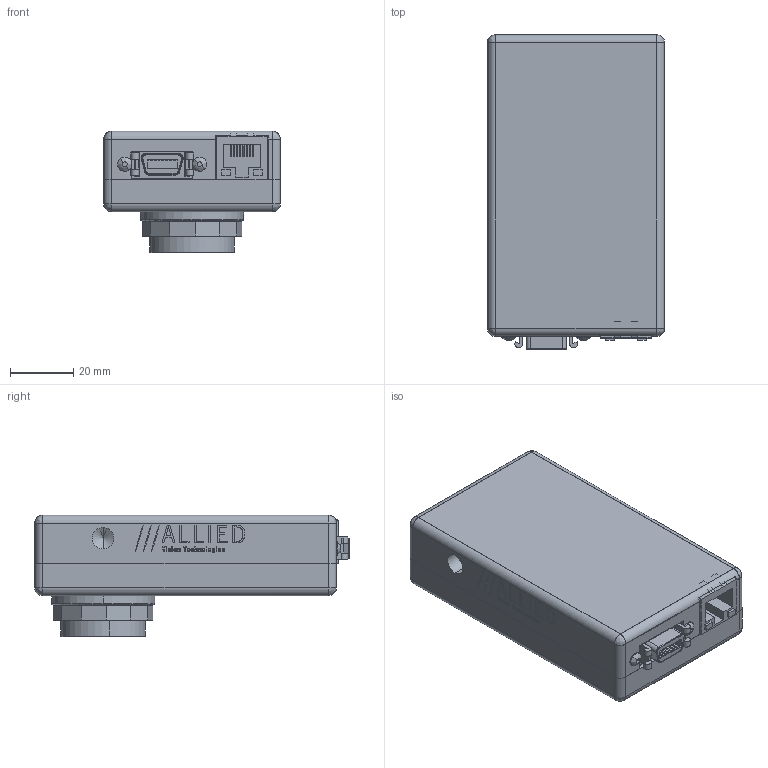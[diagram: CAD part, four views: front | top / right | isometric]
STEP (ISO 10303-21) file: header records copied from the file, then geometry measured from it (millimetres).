
FILE_DESCRIPTION (( 'STEP AP214' ), '1' );
FILE_NAME ('GS1380C.STEP', '2013-07-31T20:34:45', ( '' ), ( '' ), 'SwSTEP 2.0', 'SolidWorks 2013', '' );
FILE_SCHEMA (( 'AUTOMOTIVE_DESIGN' ));
Length unit declared in the file: millimetre
Products named in the file (25): 140008-washer spring lock #4; 140057-SCREW BUTTON SKT CAP M2.5X10 SS; 140059-EMI GASKET FOR GS; 110089A-GS FRONT; 140055-WASHER SPRING LOCK M2.5 BLACK; 740096-GS1380C LABEL PRINT; 740084B-GS SERIES LABEL; 02-2205B-GB1380C; 110090B-GS BACK RA_Default Logo; 110078A-GB MOUNT; 140056-SCREW SOCKET CAP HEX M2.5X10 BLACK; 100097A-IR FILTER ASSEMBLY 0.75 INCH; 110054AB-IR FILTER SUPPORT; 440002-IR CUT FILTER 22MM DIA; GS1380C; 110094A-GB CCD GASKET; 220054-SONY ICX285AQ; Sony ICX285 BODY; Sony ICX285 WINDOW; 140027-SCREW BUTTON M3x6 SS; 200081B-GB1380-650-LS-RA; 260039-3M 10214-55G3PC; 260036-HALO HFJ11-1G16E-L12RL; 110031A-B EC-CCD LOCKING RING; 110003AC-CV CMOUNT RING
Assembly tree (33 placements, depth 4):
  GS1380C
    140056-SCREW SOCKET CAP HEX M2.5X10 BLACK  x4
    110090B-GS BACK RA_Default Logo
    740084B-GS SERIES LABEL
    140055-WASHER SPRING LOCK M2.5 BLACK  x4
    140059-EMI GASKET FOR GS
    140057-SCREW BUTTON SKT CAP M2.5X10 SS  x2
    02-2205B-GB1380C
      140008-washer spring lock #4  x2
      110003AC-CV CMOUNT RING
      110031A-B EC-CCD LOCKING RING
      200081B-GB1380-650-LS-RA
        260036-HALO HFJ11-1G16E-L12RL
        260039-3M 10214-55G3PC
      140027-SCREW BUTTON M3x6 SS  x2
      220054-SONY ICX285AQ
        Sony ICX285 WINDOW
        Sony ICX285 BODY
      110094A-GB CCD GASKET
      100097A-IR FILTER ASSEMBLY 0.75 INCH
        440002-IR CUT FILTER 22MM DIA
        110054AB-IR FILTER SUPPORT
      110078A-GB MOUNT
    740096-GS1380C LABEL PRINT
    110089A-GS FRONT
Bounding box: 55.88 x 99.31 x 38.48 mm (x, y, z)
Volume: 58662.1 mm3; surface area: 76093.3 mm2
Topology: 88 solids, 88 shells, 3550 faces, 9196 edges, 5992 vertices
Faces by surface type: plane 2000, bspline 863, cylinder 475, cone 212
Entity records: 174548 total; most frequent: CARTESIAN_POINT 56213, ORIENTED_EDGE 17760, DIRECTION 13443, EDGE_CURVE 8880, VECTOR 6063, LINE 6063, VERTEX_POINT 5823, EDGE_LOOP 3763
